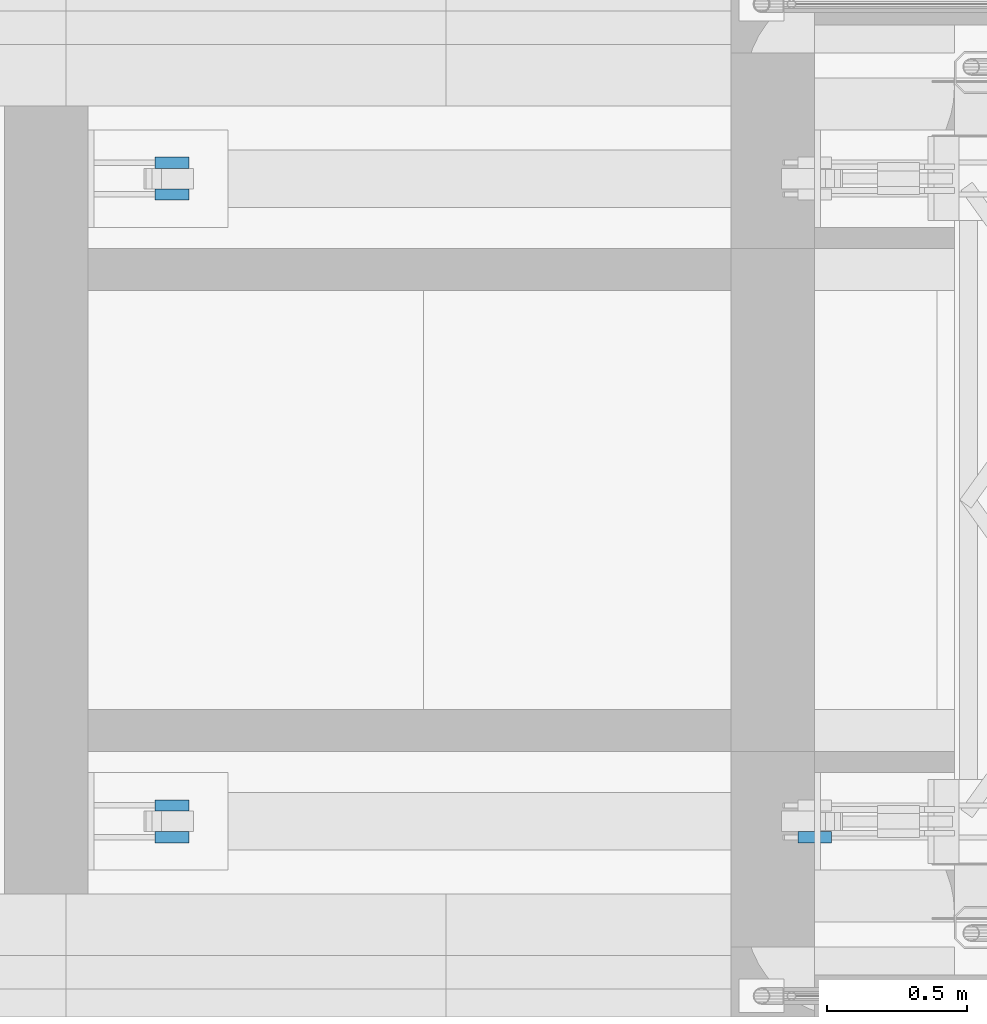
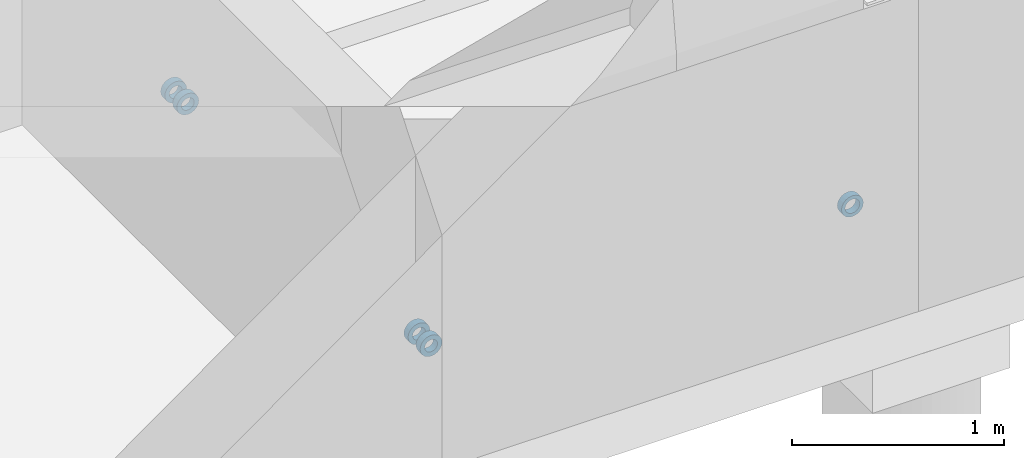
# One storey, part 18 of 31: 5 beams.
"""IFC2X3 building model written with IfcOpenShell, lengths in millimetres."""

from ifc_helpers import new_model, si_unit, frame, origin_with_axes, place, context, subcontext, project, spatial, faceted_brep, material, type_object, element, save


model = new_model("IFC2X3")

# Units and contexts
model_context = context("Model", 3, precision=1e-05, world=origin_with_axes())
body_context = subcontext(model_context, "Body", "Model", "MODEL_VIEW")
ifc_project = project(units=[si_unit("LENGTHUNIT", "METRE", prefix="MILLI"), si_unit("AREAUNIT", "SQUARE_METRE"), si_unit("VOLUMEUNIT", "CUBIC_METRE"), si_unit("MASSUNIT", "GRAM", prefix="KILO"), si_unit("TIMEUNIT", "SECOND"), si_unit("PLANEANGLEUNIT", "RADIAN"), si_unit("SOLIDANGLEUNIT", "STERADIAN"), si_unit("THERMODYNAMICTEMPERATUREUNIT", "DEGREE_CELSIUS"), si_unit("LUMINOUSINTENSITYUNIT", "LUMEN")], contexts=[model_context])

# Site, building, storey
site_placement = place(None, origin_with_axes())
site = spatial("IfcSite", under=ifc_project, at=site_placement, Name="Undefined", CompositionType="ELEMENT")
building_placement = place(site_placement, origin_with_axes())
building = spatial("IfcBuilding", under=site, at=building_placement, Name="Undefined", CompositionType="ELEMENT")
storey_placement = place(building_placement, origin_with_axes())
storey = spatial("IfcBuildingStorey", under=building, at=storey_placement, Name="Undefined", CompositionType="ELEMENT", Elevation=0.0)

# Beams
ifc_material = material(Name="STEEL/S355J2+N")
beam_type_1 = type_object("IfcBeamType", Name="O120*25", PredefinedType="NOTDEFINED")
beam_1_placement = place(storey_placement, frame((300.0, 2337.0, -1619.69), z_axis=(0.0, 0.0, -1.0), x_axis=(0.0, 1.0, 0.0)))
element("IfcBeam", 1, at=beam_1_placement, inside=storey, type_object=beam_type_1, material=ifc_material, Name="INNFESTING", context=body_context, shape_type="Brep", body=[
    faceted_brep([(0.0, -35.0, 0.0), (0.0, -33.2869780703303, 10.8155948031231), (40.0, -33.2869780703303, 10.8155948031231), (40.0, -35.0, 0.0), (0.0, -28.3155948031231, 20.5724838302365), (40.0, -28.3155948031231, 20.5724838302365), (0.0, -20.5724838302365, 28.3155948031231), (40.0, -20.5724838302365, 28.3155948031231), (0.0, -10.8155948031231, 33.2869780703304), (40.0, -10.8155948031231, 33.2869780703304), (0.0, 0.0, 35.0), (40.0, 0.0, 35.0), (0.0, 10.8155948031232, 33.2869780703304), (40.0, 10.8155948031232, 33.2869780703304), (0.0, 20.5724838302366, 28.3155948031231), (40.0, 20.5724838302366, 28.3155948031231), (0.0, 28.3155948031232, 20.5724838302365), (40.0, 28.3155948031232, 20.5724838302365), (0.0, 33.2869780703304, 10.8155948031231), (40.0, 33.2869780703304, 10.8155948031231), (0.0, 35.0, 0.0), (40.0, 35.0, 0.0), (0.0, 33.2869780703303, -10.8155948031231), (40.0, 33.2869780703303, -10.8155948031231), (0.0, 28.3155948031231, -20.5724838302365), (40.0, 28.3155948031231, -20.5724838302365), (0.0, 20.5724838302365, -28.3155948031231), (40.0, 20.5724838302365, -28.3155948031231), (0.0, 10.8155948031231, -33.2869780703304), (40.0, 10.8155948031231, -33.2869780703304), (0.0, 0.0, -35.0), (40.0, 0.0, -35.0), (0.0, -10.8155948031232, -33.2869780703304), (40.0, -10.8155948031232, -33.2869780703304), (0.0, -20.5724838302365, -28.3155948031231), (40.0, -20.5724838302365, -28.3155948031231), (0.0, -28.3155948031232, -20.5724838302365), (40.0, -28.3155948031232, -20.5724838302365), (0.0, -33.2869780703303, -10.8155948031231), (40.0, -33.2869780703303, -10.8155948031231), (0.0, -60.0, 0.0), (0.0, -57.0633909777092, -18.5410196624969), (40.0, -57.0633909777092, -18.5410196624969), (40.0, -60.0, 0.0), (0.0, -48.5410196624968, -35.2671151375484), (40.0, -48.5410196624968, -35.2671151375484), (0.0, -35.2671151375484, -48.5410196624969), (40.0, -35.2671151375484, -48.5410196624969), (0.0, -18.5410196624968, -57.0633909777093), (40.0, -18.5410196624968, -57.0633909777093), (0.0, 0.0, -60.0), (40.0, 0.0, -60.0), (0.0, 18.5410196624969, -57.0633909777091), (40.0, 18.5410196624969, -57.0633909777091), (0.0, 35.2671151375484, -48.5410196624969), (40.0, 35.2671151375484, -48.5410196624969), (0.0, 48.5410196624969, -35.2671151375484), (40.0, 48.5410196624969, -35.2671151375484), (0.0, 57.0633909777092, -18.5410196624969), (40.0, 57.0633909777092, -18.5410196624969), (0.0, 60.0, 0.0), (40.0, 60.0, 0.0), (0.0, 57.0633909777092, 18.5410196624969), (40.0, 57.0633909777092, 18.5410196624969), (0.0, 48.5410196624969, 35.2671151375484), (40.0, 48.5410196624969, 35.2671151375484), (0.0, 35.2671151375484, 48.5410196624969), (40.0, 35.2671151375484, 48.5410196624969), (0.0, 18.5410196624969, 57.0633909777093), (40.0, 18.5410196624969, 57.0633909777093), (0.0, 0.0, 60.0), (40.0, 0.0, 60.0), (0.0, -18.5410196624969, 57.0633909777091), (40.0, -18.5410196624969, 57.0633909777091), (0.0, -35.2671151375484, 48.5410196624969), (40.0, -35.2671151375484, 48.5410196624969), (0.0, -48.5410196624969, 35.2671151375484), (40.0, -48.5410196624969, 35.2671151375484), (0.0, -57.0633909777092, 18.5410196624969), (40.0, -57.0633909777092, 18.5410196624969)], [[[0, 1, 2, 3]], [[1, 4, 5, 2]], [[4, 6, 7, 5]], [[6, 8, 9, 7]], [[8, 10, 11, 9]], [[10, 12, 13, 11]], [[12, 14, 15, 13]], [[14, 16, 17, 15]], [[16, 18, 19, 17]], [[18, 20, 21, 19]], [[20, 22, 23, 21]], [[22, 24, 25, 23]], [[24, 26, 27, 25]], [[26, 28, 29, 27]], [[28, 30, 31, 29]], [[30, 32, 33, 31]], [[32, 34, 35, 33]], [[34, 36, 37, 35]], [[36, 38, 39, 37]], [[38, 0, 3, 39]], [[40, 41, 42, 43]], [[41, 44, 45, 42]], [[44, 46, 47, 45]], [[46, 48, 49, 47]], [[48, 50, 51, 49]], [[50, 52, 53, 51]], [[52, 54, 55, 53]], [[54, 56, 57, 55]], [[56, 58, 59, 57]], [[58, 60, 61, 59]], [[60, 62, 63, 61]], [[62, 64, 65, 63]], [[64, 66, 67, 65]], [[66, 68, 69, 67]], [[68, 70, 71, 69]], [[70, 72, 73, 71]], [[72, 74, 75, 73]], [[74, 76, 77, 75]], [[76, 78, 79, 77]], [[78, 40, 43, 79]], [[45, 47, 49, 51, 53, 55, 57, 59, 61, 63, 65, 67, 69, 71, 73, 75, 77, 79, 43, 42], [5, 7, 9, 11, 13, 15, 17, 19, 21, 23, 25, 27, 29, 31, 33, 35, 37, 39, 3, 2]], [[78, 76, 74, 72, 70, 68, 66, 64, 62, 60, 58, 56, 54, 52, 50, 48, 46, 44, 41, 40], [38, 36, 34, 32, 30, 28, 26, 24, 22, 20, 18, 16, 14, 12, 10, 8, 6, 4, 1, 0]]]),
])
beam_2_placement = place(storey_placement, frame((300.0, 2223.0, -1619.69), z_axis=(0.0, 0.0, -1.0), x_axis=(0.0, 1.0, 0.0)))
element("IfcBeam", 2, at=beam_2_placement, inside=storey, type_object=beam_type_1, material=ifc_material, Name="INNFESTING", context=body_context, shape_type="Brep", body=[
    faceted_brep([(0.0, -35.0, 0.0), (0.0, -33.2869780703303, 10.8155948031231), (40.0, -33.2869780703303, 10.8155948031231), (40.0, -35.0, 0.0), (0.0, -28.3155948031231, 20.5724838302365), (40.0, -28.3155948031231, 20.5724838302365), (0.0, -20.5724838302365, 28.3155948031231), (40.0, -20.5724838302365, 28.3155948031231), (0.0, -10.8155948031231, 33.2869780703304), (40.0, -10.8155948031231, 33.2869780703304), (0.0, 0.0, 35.0), (40.0, 0.0, 35.0), (0.0, 10.8155948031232, 33.2869780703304), (40.0, 10.8155948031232, 33.2869780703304), (0.0, 20.5724838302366, 28.3155948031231), (40.0, 20.5724838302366, 28.3155948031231), (0.0, 28.3155948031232, 20.5724838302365), (40.0, 28.3155948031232, 20.5724838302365), (0.0, 33.2869780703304, 10.8155948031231), (40.0, 33.2869780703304, 10.8155948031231), (0.0, 35.0, 0.0), (40.0, 35.0, 0.0), (0.0, 33.2869780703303, -10.8155948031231), (40.0, 33.2869780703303, -10.8155948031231), (0.0, 28.3155948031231, -20.5724838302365), (40.0, 28.3155948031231, -20.5724838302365), (0.0, 20.5724838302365, -28.3155948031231), (40.0, 20.5724838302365, -28.3155948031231), (0.0, 10.8155948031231, -33.2869780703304), (40.0, 10.8155948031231, -33.2869780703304), (0.0, 0.0, -35.0), (40.0, 0.0, -35.0), (0.0, -10.8155948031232, -33.2869780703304), (40.0, -10.8155948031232, -33.2869780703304), (0.0, -20.5724838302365, -28.3155948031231), (40.0, -20.5724838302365, -28.3155948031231), (0.0, -28.3155948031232, -20.5724838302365), (40.0, -28.3155948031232, -20.5724838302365), (0.0, -33.2869780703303, -10.8155948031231), (40.0, -33.2869780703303, -10.8155948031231), (0.0, -60.0, 0.0), (0.0, -57.0633909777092, -18.5410196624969), (40.0, -57.0633909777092, -18.5410196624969), (40.0, -60.0, 0.0), (0.0, -48.5410196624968, -35.2671151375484), (40.0, -48.5410196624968, -35.2671151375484), (0.0, -35.2671151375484, -48.5410196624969), (40.0, -35.2671151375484, -48.5410196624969), (0.0, -18.5410196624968, -57.0633909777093), (40.0, -18.5410196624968, -57.0633909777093), (0.0, 0.0, -60.0), (40.0, 0.0, -60.0), (0.0, 18.5410196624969, -57.0633909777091), (40.0, 18.5410196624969, -57.0633909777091), (0.0, 35.2671151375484, -48.5410196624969), (40.0, 35.2671151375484, -48.5410196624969), (0.0, 48.5410196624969, -35.2671151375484), (40.0, 48.5410196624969, -35.2671151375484), (0.0, 57.0633909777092, -18.5410196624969), (40.0, 57.0633909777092, -18.5410196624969), (0.0, 60.0, 0.0), (40.0, 60.0, 0.0), (0.0, 57.0633909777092, 18.5410196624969), (40.0, 57.0633909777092, 18.5410196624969), (0.0, 48.5410196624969, 35.2671151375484), (40.0, 48.5410196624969, 35.2671151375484), (0.0, 35.2671151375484, 48.5410196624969), (40.0, 35.2671151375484, 48.5410196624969), (0.0, 18.5410196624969, 57.0633909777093), (40.0, 18.5410196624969, 57.0633909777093), (0.0, 0.0, 60.0), (40.0, 0.0, 60.0), (0.0, -18.5410196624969, 57.0633909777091), (40.0, -18.5410196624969, 57.0633909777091), (0.0, -35.2671151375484, 48.5410196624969), (40.0, -35.2671151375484, 48.5410196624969), (0.0, -48.5410196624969, 35.2671151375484), (40.0, -48.5410196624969, 35.2671151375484), (0.0, -57.0633909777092, 18.5410196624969), (40.0, -57.0633909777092, 18.5410196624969)], [[[0, 1, 2, 3]], [[1, 4, 5, 2]], [[4, 6, 7, 5]], [[6, 8, 9, 7]], [[8, 10, 11, 9]], [[10, 12, 13, 11]], [[12, 14, 15, 13]], [[14, 16, 17, 15]], [[16, 18, 19, 17]], [[18, 20, 21, 19]], [[20, 22, 23, 21]], [[22, 24, 25, 23]], [[24, 26, 27, 25]], [[26, 28, 29, 27]], [[28, 30, 31, 29]], [[30, 32, 33, 31]], [[32, 34, 35, 33]], [[34, 36, 37, 35]], [[36, 38, 39, 37]], [[38, 0, 3, 39]], [[40, 41, 42, 43]], [[41, 44, 45, 42]], [[44, 46, 47, 45]], [[46, 48, 49, 47]], [[48, 50, 51, 49]], [[50, 52, 53, 51]], [[52, 54, 55, 53]], [[54, 56, 57, 55]], [[56, 58, 59, 57]], [[58, 60, 61, 59]], [[60, 62, 63, 61]], [[62, 64, 65, 63]], [[64, 66, 67, 65]], [[66, 68, 69, 67]], [[68, 70, 71, 69]], [[70, 72, 73, 71]], [[72, 74, 75, 73]], [[74, 76, 77, 75]], [[76, 78, 79, 77]], [[78, 40, 43, 79]], [[45, 47, 49, 51, 53, 55, 57, 59, 61, 63, 65, 67, 69, 71, 73, 75, 77, 79, 43, 42], [5, 7, 9, 11, 13, 15, 17, 19, 21, 23, 25, 27, 29, 31, 33, 35, 37, 39, 3, 2]], [[78, 76, 74, 72, 70, 68, 66, 64, 62, 60, 58, 56, 54, 52, 50, 48, 46, 44, 41, 40], [38, 36, 34, 32, 30, 28, 26, 24, 22, 20, 18, 16, 14, 12, 10, 8, 6, 4, 1, 0]]]),
])
beam_3_placement = place(storey_placement, frame((300.0, 37.0, -1619.69), z_axis=(0.0, 0.0, -1.0), x_axis=(0.0, 1.0, 0.0)))
element("IfcBeam", 3, at=beam_3_placement, inside=storey, type_object=beam_type_1, material=ifc_material, Name="INNFESTING", context=body_context, shape_type="Brep", body=[
    faceted_brep([(0.0, -35.0, 0.0), (0.0, -33.2869780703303, 10.8155948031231), (40.0, -33.2869780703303, 10.8155948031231), (40.0, -35.0, 0.0), (0.0, -28.3155948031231, 20.5724838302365), (40.0, -28.3155948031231, 20.5724838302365), (0.0, -20.5724838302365, 28.3155948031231), (40.0, -20.5724838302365, 28.3155948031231), (0.0, -10.8155948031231, 33.2869780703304), (40.0, -10.8155948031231, 33.2869780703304), (0.0, 0.0, 35.0), (40.0, 0.0, 35.0), (0.0, 10.8155948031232, 33.2869780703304), (40.0, 10.8155948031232, 33.2869780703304), (0.0, 20.5724838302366, 28.3155948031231), (40.0, 20.5724838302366, 28.3155948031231), (0.0, 28.3155948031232, 20.5724838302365), (40.0, 28.3155948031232, 20.5724838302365), (0.0, 33.2869780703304, 10.8155948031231), (40.0, 33.2869780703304, 10.8155948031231), (0.0, 35.0, 0.0), (40.0, 35.0, 0.0), (0.0, 33.2869780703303, -10.8155948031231), (40.0, 33.2869780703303, -10.8155948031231), (0.0, 28.3155948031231, -20.5724838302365), (40.0, 28.3155948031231, -20.5724838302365), (0.0, 20.5724838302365, -28.3155948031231), (40.0, 20.5724838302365, -28.3155948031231), (0.0, 10.8155948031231, -33.2869780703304), (40.0, 10.8155948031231, -33.2869780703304), (0.0, 0.0, -35.0), (40.0, 0.0, -35.0), (0.0, -10.8155948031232, -33.2869780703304), (40.0, -10.8155948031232, -33.2869780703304), (0.0, -20.5724838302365, -28.3155948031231), (40.0, -20.5724838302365, -28.3155948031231), (0.0, -28.3155948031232, -20.5724838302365), (40.0, -28.3155948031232, -20.5724838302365), (0.0, -33.2869780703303, -10.8155948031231), (40.0, -33.2869780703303, -10.8155948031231), (0.0, -60.0, 0.0), (0.0, -57.0633909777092, -18.5410196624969), (40.0, -57.0633909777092, -18.5410196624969), (40.0, -60.0, 0.0), (0.0, -48.5410196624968, -35.2671151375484), (40.0, -48.5410196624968, -35.2671151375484), (0.0, -35.2671151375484, -48.5410196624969), (40.0, -35.2671151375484, -48.5410196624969), (0.0, -18.5410196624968, -57.0633909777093), (40.0, -18.5410196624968, -57.0633909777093), (0.0, 0.0, -60.0), (40.0, 0.0, -60.0), (0.0, 18.5410196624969, -57.0633909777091), (40.0, 18.5410196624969, -57.0633909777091), (0.0, 35.2671151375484, -48.5410196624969), (40.0, 35.2671151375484, -48.5410196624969), (0.0, 48.5410196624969, -35.2671151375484), (40.0, 48.5410196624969, -35.2671151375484), (0.0, 57.0633909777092, -18.5410196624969), (40.0, 57.0633909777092, -18.5410196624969), (0.0, 60.0, 0.0), (40.0, 60.0, 0.0), (0.0, 57.0633909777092, 18.5410196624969), (40.0, 57.0633909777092, 18.5410196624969), (0.0, 48.5410196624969, 35.2671151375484), (40.0, 48.5410196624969, 35.2671151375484), (0.0, 35.2671151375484, 48.5410196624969), (40.0, 35.2671151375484, 48.5410196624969), (0.0, 18.5410196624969, 57.0633909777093), (40.0, 18.5410196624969, 57.0633909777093), (0.0, 0.0, 60.0), (40.0, 0.0, 60.0), (0.0, -18.5410196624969, 57.0633909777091), (40.0, -18.5410196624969, 57.0633909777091), (0.0, -35.2671151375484, 48.5410196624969), (40.0, -35.2671151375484, 48.5410196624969), (0.0, -48.5410196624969, 35.2671151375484), (40.0, -48.5410196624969, 35.2671151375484), (0.0, -57.0633909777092, 18.5410196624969), (40.0, -57.0633909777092, 18.5410196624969)], [[[0, 1, 2, 3]], [[1, 4, 5, 2]], [[4, 6, 7, 5]], [[6, 8, 9, 7]], [[8, 10, 11, 9]], [[10, 12, 13, 11]], [[12, 14, 15, 13]], [[14, 16, 17, 15]], [[16, 18, 19, 17]], [[18, 20, 21, 19]], [[20, 22, 23, 21]], [[22, 24, 25, 23]], [[24, 26, 27, 25]], [[26, 28, 29, 27]], [[28, 30, 31, 29]], [[30, 32, 33, 31]], [[32, 34, 35, 33]], [[34, 36, 37, 35]], [[36, 38, 39, 37]], [[38, 0, 3, 39]], [[40, 41, 42, 43]], [[41, 44, 45, 42]], [[44, 46, 47, 45]], [[46, 48, 49, 47]], [[48, 50, 51, 49]], [[50, 52, 53, 51]], [[52, 54, 55, 53]], [[54, 56, 57, 55]], [[56, 58, 59, 57]], [[58, 60, 61, 59]], [[60, 62, 63, 61]], [[62, 64, 65, 63]], [[64, 66, 67, 65]], [[66, 68, 69, 67]], [[68, 70, 71, 69]], [[70, 72, 73, 71]], [[72, 74, 75, 73]], [[74, 76, 77, 75]], [[76, 78, 79, 77]], [[78, 40, 43, 79]], [[45, 47, 49, 51, 53, 55, 57, 59, 61, 63, 65, 67, 69, 71, 73, 75, 77, 79, 43, 42], [5, 7, 9, 11, 13, 15, 17, 19, 21, 23, 25, 27, 29, 31, 33, 35, 37, 39, 3, 2]], [[78, 76, 74, 72, 70, 68, 66, 64, 62, 60, 58, 56, 54, 52, 50, 48, 46, 44, 41, 40], [38, 36, 34, 32, 30, 28, 26, 24, 22, 20, 18, 16, 14, 12, 10, 8, 6, 4, 1, 0]]]),
])
beam_4_placement = place(storey_placement, frame((300.0, -77.0, -1619.69), z_axis=(0.0, 0.0, -1.0), x_axis=(0.0, 1.0, 0.0)))
element("IfcBeam", 4, at=beam_4_placement, inside=storey, type_object=beam_type_1, material=ifc_material, Name="INNFESTING", context=body_context, shape_type="Brep", body=[
    faceted_brep([(0.0, -35.0, 0.0), (0.0, -33.2869780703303, 10.8155948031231), (40.0, -33.2869780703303, 10.8155948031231), (40.0, -35.0, 0.0), (0.0, -28.3155948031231, 20.5724838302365), (40.0, -28.3155948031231, 20.5724838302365), (0.0, -20.5724838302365, 28.3155948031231), (40.0, -20.5724838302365, 28.3155948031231), (0.0, -10.8155948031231, 33.2869780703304), (40.0, -10.8155948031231, 33.2869780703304), (0.0, 0.0, 35.0), (40.0, 0.0, 35.0), (0.0, 10.8155948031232, 33.2869780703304), (40.0, 10.8155948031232, 33.2869780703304), (0.0, 20.5724838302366, 28.3155948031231), (40.0, 20.5724838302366, 28.3155948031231), (0.0, 28.3155948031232, 20.5724838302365), (40.0, 28.3155948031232, 20.5724838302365), (0.0, 33.2869780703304, 10.8155948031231), (40.0, 33.2869780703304, 10.8155948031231), (0.0, 35.0, 0.0), (40.0, 35.0, 0.0), (0.0, 33.2869780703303, -10.8155948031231), (40.0, 33.2869780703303, -10.8155948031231), (0.0, 28.3155948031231, -20.5724838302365), (40.0, 28.3155948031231, -20.5724838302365), (0.0, 20.5724838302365, -28.3155948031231), (40.0, 20.5724838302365, -28.3155948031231), (0.0, 10.8155948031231, -33.2869780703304), (40.0, 10.8155948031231, -33.2869780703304), (0.0, 0.0, -35.0), (40.0, 0.0, -35.0), (0.0, -10.8155948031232, -33.2869780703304), (40.0, -10.8155948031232, -33.2869780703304), (0.0, -20.5724838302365, -28.3155948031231), (40.0, -20.5724838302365, -28.3155948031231), (0.0, -28.3155948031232, -20.5724838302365), (40.0, -28.3155948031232, -20.5724838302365), (0.0, -33.2869780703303, -10.8155948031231), (40.0, -33.2869780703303, -10.8155948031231), (0.0, -60.0, 0.0), (0.0, -57.0633909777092, -18.5410196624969), (40.0, -57.0633909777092, -18.5410196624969), (40.0, -60.0, 0.0), (0.0, -48.5410196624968, -35.2671151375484), (40.0, -48.5410196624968, -35.2671151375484), (0.0, -35.2671151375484, -48.5410196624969), (40.0, -35.2671151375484, -48.5410196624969), (0.0, -18.5410196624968, -57.0633909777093), (40.0, -18.5410196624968, -57.0633909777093), (0.0, 0.0, -60.0), (40.0, 0.0, -60.0), (0.0, 18.5410196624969, -57.0633909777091), (40.0, 18.5410196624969, -57.0633909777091), (0.0, 35.2671151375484, -48.5410196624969), (40.0, 35.2671151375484, -48.5410196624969), (0.0, 48.5410196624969, -35.2671151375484), (40.0, 48.5410196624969, -35.2671151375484), (0.0, 57.0633909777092, -18.5410196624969), (40.0, 57.0633909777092, -18.5410196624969), (0.0, 60.0, 0.0), (40.0, 60.0, 0.0), (0.0, 57.0633909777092, 18.5410196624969), (40.0, 57.0633909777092, 18.5410196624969), (0.0, 48.5410196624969, 35.2671151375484), (40.0, 48.5410196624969, 35.2671151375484), (0.0, 35.2671151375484, 48.5410196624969), (40.0, 35.2671151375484, 48.5410196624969), (0.0, 18.5410196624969, 57.0633909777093), (40.0, 18.5410196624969, 57.0633909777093), (0.0, 0.0, 60.0), (40.0, 0.0, 60.0), (0.0, -18.5410196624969, 57.0633909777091), (40.0, -18.5410196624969, 57.0633909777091), (0.0, -35.2671151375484, 48.5410196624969), (40.0, -35.2671151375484, 48.5410196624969), (0.0, -48.5410196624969, 35.2671151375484), (40.0, -48.5410196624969, 35.2671151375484), (0.0, -57.0633909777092, 18.5410196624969), (40.0, -57.0633909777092, 18.5410196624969)], [[[0, 1, 2, 3]], [[1, 4, 5, 2]], [[4, 6, 7, 5]], [[6, 8, 9, 7]], [[8, 10, 11, 9]], [[10, 12, 13, 11]], [[12, 14, 15, 13]], [[14, 16, 17, 15]], [[16, 18, 19, 17]], [[18, 20, 21, 19]], [[20, 22, 23, 21]], [[22, 24, 25, 23]], [[24, 26, 27, 25]], [[26, 28, 29, 27]], [[28, 30, 31, 29]], [[30, 32, 33, 31]], [[32, 34, 35, 33]], [[34, 36, 37, 35]], [[36, 38, 39, 37]], [[38, 0, 3, 39]], [[40, 41, 42, 43]], [[41, 44, 45, 42]], [[44, 46, 47, 45]], [[46, 48, 49, 47]], [[48, 50, 51, 49]], [[50, 52, 53, 51]], [[52, 54, 55, 53]], [[54, 56, 57, 55]], [[56, 58, 59, 57]], [[58, 60, 61, 59]], [[60, 62, 63, 61]], [[62, 64, 65, 63]], [[64, 66, 67, 65]], [[66, 68, 69, 67]], [[68, 70, 71, 69]], [[70, 72, 73, 71]], [[72, 74, 75, 73]], [[74, 76, 77, 75]], [[76, 78, 79, 77]], [[78, 40, 43, 79]], [[45, 47, 49, 51, 53, 55, 57, 59, 61, 63, 65, 67, 69, 71, 73, 75, 77, 79, 43, 42], [5, 7, 9, 11, 13, 15, 17, 19, 21, 23, 25, 27, 29, 31, 33, 35, 37, 39, 3, 2]], [[78, 76, 74, 72, 70, 68, 66, 64, 62, 60, 58, 56, 54, 52, 50, 48, 46, 44, 41, 40], [38, 36, 34, 32, 30, 28, 26, 24, 22, 20, 18, 16, 14, 12, 10, 8, 6, 4, 1, 0]]]),
])
beam_type_2 = type_object("IfcBeamType", Name="O120*20", PredefinedType="NOTDEFINED")
beam_5_placement = place(storey_placement, frame((2600.0, -77.0, -1619.69), z_axis=(0.0, 0.0, -1.0), x_axis=(0.0, 1.0, 0.0)))
element("IfcBeam", 5, at=beam_5_placement, inside=storey, type_object=beam_type_2, material=ifc_material, Name="STÅLBJELKE", context=body_context, shape_type="Brep", body=[
    faceted_brep([(0.0, -40.0, 0.0), (0.0, -38.0422606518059, 12.3606797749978), (40.0, -38.0422606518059, 12.3606797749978), (40.0, -40.0, 0.0), (0.0, -32.3606797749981, 23.511410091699), (40.0, -32.3606797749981, 23.511410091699), (0.0, -23.511410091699, 32.3606797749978), (40.0, -23.511410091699, 32.3606797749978), (0.0, -12.3606797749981, 38.0422606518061), (40.0, -12.3606797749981, 38.0422606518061), (0.0, 0.0, 40.0), (40.0, 0.0, 40.0), (0.0, 12.3606797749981, 38.0422606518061), (40.0, 12.3606797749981, 38.0422606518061), (0.0, 23.511410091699, 32.3606797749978), (40.0, 23.511410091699, 32.3606797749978), (0.0, 32.3606797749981, 23.511410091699), (40.0, 32.3606797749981, 23.511410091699), (0.0, 38.0422606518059, 12.3606797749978), (40.0, 38.0422606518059, 12.3606797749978), (0.0, 40.0, 0.0), (40.0, 40.0, 0.0), (0.0, 38.0422606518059, -12.3606797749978), (40.0, 38.0422606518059, -12.3606797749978), (0.0, 32.3606797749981, -23.511410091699), (40.0, 32.3606797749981, -23.511410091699), (0.0, 23.511410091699, -32.3606797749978), (40.0, 23.511410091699, -32.3606797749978), (0.0, 12.3606797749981, -38.0422606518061), (40.0, 12.3606797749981, -38.0422606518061), (0.0, 0.0, -40.0), (40.0, 0.0, -40.0), (0.0, -12.3606797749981, -38.0422606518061), (40.0, -12.3606797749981, -38.0422606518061), (0.0, -23.511410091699, -32.3606797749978), (40.0, -23.511410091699, -32.3606797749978), (0.0, -32.3606797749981, -23.511410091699), (40.0, -32.3606797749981, -23.511410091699), (0.0, -38.0422606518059, -12.3606797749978), (40.0, -38.0422606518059, -12.3606797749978), (0.0, -60.0, 0.0), (0.0, -57.0633909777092, -18.5410196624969), (40.0, -57.0633909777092, -18.5410196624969), (40.0, -60.0, 0.0), (0.0, -48.5410196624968, -35.2671151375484), (40.0, -48.5410196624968, -35.2671151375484), (0.0, -35.2671151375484, -48.5410196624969), (40.0, -35.2671151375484, -48.5410196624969), (0.0, -18.5410196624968, -57.0633909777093), (40.0, -18.5410196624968, -57.0633909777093), (0.0, 0.0, -60.0), (40.0, 0.0, -60.0), (0.0, 18.5410196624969, -57.0633909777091), (40.0, 18.5410196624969, -57.0633909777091), (0.0, 35.2671151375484, -48.5410196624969), (40.0, 35.2671151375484, -48.5410196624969), (0.0, 48.5410196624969, -35.2671151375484), (40.0, 48.5410196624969, -35.2671151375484), (0.0, 57.0633909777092, -18.5410196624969), (40.0, 57.0633909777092, -18.5410196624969), (0.0, 60.0, 0.0), (40.0, 60.0, 0.0), (0.0, 57.0633909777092, 18.5410196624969), (40.0, 57.0633909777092, 18.5410196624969), (0.0, 48.5410196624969, 35.2671151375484), (40.0, 48.5410196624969, 35.2671151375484), (0.0, 35.2671151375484, 48.5410196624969), (40.0, 35.2671151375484, 48.5410196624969), (0.0, 18.5410196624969, 57.0633909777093), (40.0, 18.5410196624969, 57.0633909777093), (0.0, 0.0, 60.0), (40.0, 0.0, 60.0), (0.0, -18.5410196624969, 57.0633909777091), (40.0, -18.5410196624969, 57.0633909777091), (0.0, -35.2671151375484, 48.5410196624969), (40.0, -35.2671151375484, 48.5410196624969), (0.0, -48.5410196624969, 35.2671151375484), (40.0, -48.5410196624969, 35.2671151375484), (0.0, -57.0633909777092, 18.5410196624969), (40.0, -57.0633909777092, 18.5410196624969)], [[[0, 1, 2, 3]], [[1, 4, 5, 2]], [[4, 6, 7, 5]], [[6, 8, 9, 7]], [[8, 10, 11, 9]], [[10, 12, 13, 11]], [[12, 14, 15, 13]], [[14, 16, 17, 15]], [[16, 18, 19, 17]], [[18, 20, 21, 19]], [[20, 22, 23, 21]], [[22, 24, 25, 23]], [[24, 26, 27, 25]], [[26, 28, 29, 27]], [[28, 30, 31, 29]], [[30, 32, 33, 31]], [[32, 34, 35, 33]], [[34, 36, 37, 35]], [[36, 38, 39, 37]], [[38, 0, 3, 39]], [[40, 41, 42, 43]], [[41, 44, 45, 42]], [[44, 46, 47, 45]], [[46, 48, 49, 47]], [[48, 50, 51, 49]], [[50, 52, 53, 51]], [[52, 54, 55, 53]], [[54, 56, 57, 55]], [[56, 58, 59, 57]], [[58, 60, 61, 59]], [[60, 62, 63, 61]], [[62, 64, 65, 63]], [[64, 66, 67, 65]], [[66, 68, 69, 67]], [[68, 70, 71, 69]], [[70, 72, 73, 71]], [[72, 74, 75, 73]], [[74, 76, 77, 75]], [[76, 78, 79, 77]], [[78, 40, 43, 79]], [[45, 47, 49, 51, 53, 55, 57, 59, 61, 63, 65, 67, 69, 71, 73, 75, 77, 79, 43, 42], [5, 7, 9, 11, 13, 15, 17, 19, 21, 23, 25, 27, 29, 31, 33, 35, 37, 39, 3, 2]], [[78, 76, 74, 72, 70, 68, 66, 64, 62, 60, 58, 56, 54, 52, 50, 48, 46, 44, 41, 40], [38, 36, 34, 32, 30, 28, 26, 24, 22, 20, 18, 16, 14, 12, 10, 8, 6, 4, 1, 0]]]),
])

save(model, "model.ifc")
